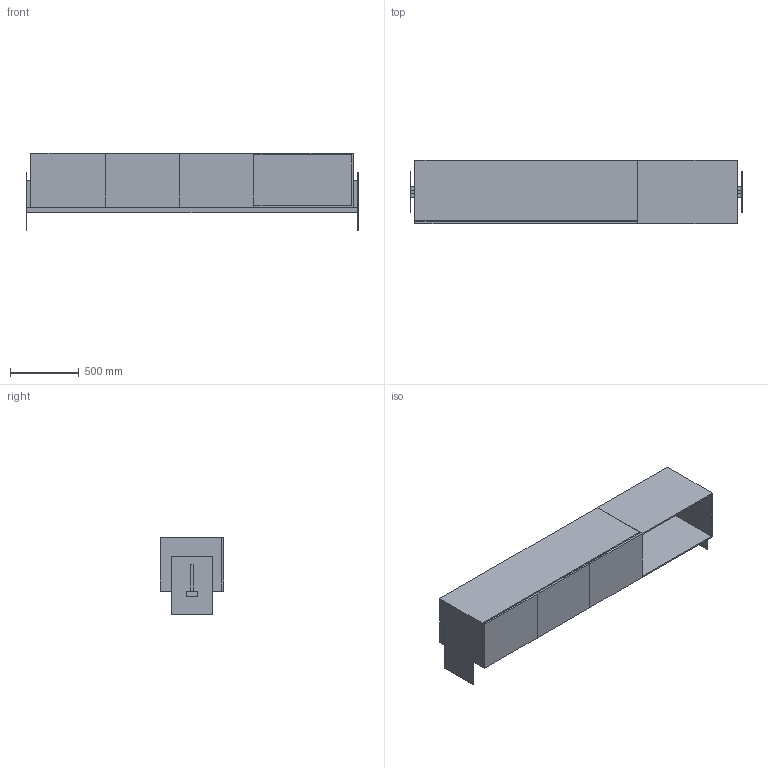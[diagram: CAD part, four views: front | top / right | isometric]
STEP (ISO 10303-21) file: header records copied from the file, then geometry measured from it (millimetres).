
FILE_DESCRIPTION(/* description */ (''),/* implementation_level */ '2;1');
FILE_NAME(/* name */ 'FB5UOK~B',/* time_stamp */ '2024-07-04T11:27:00+02:00',/* author */ (''),/* organization */ (''),/* preprocessor_version */ 'ST-DEVELOPER v15',/* originating_system */ '',/* authorisation */ '');
FILE_SCHEMA (('AUTOMOTIVE_DESIGN'));
Length unit declared in the file: centimetre
Products named in the file (1): Document
Bounding box: 2412 x 462.3 x 560 mm (x, y, z)
Volume: 81902804.8 mm3; surface area: 9696519.9 mm2
Topology: 10 solids, 10 shells, 82 faces, 180 edges, 120 vertices
Faces by surface type: plane 82
Entity records: 2033 total; most frequent: CARTESIAN_POINT 564, ORIENTED_EDGE 360, EDGE_CURVE 180, B_SPLINE_CURVE_WITH_KNOTS 180, VERTEX_POINT 120, DIRECTION 86, EDGE_LOOP 84, AXIS2_PLACEMENT_3D 84
